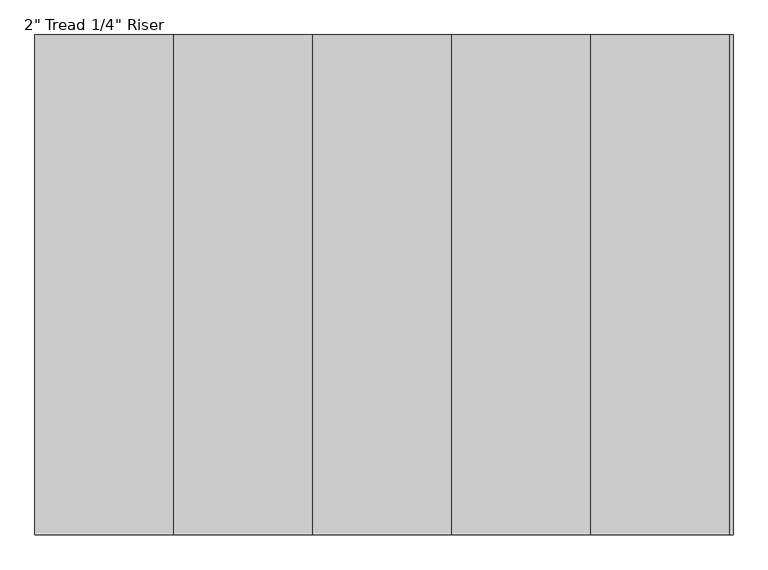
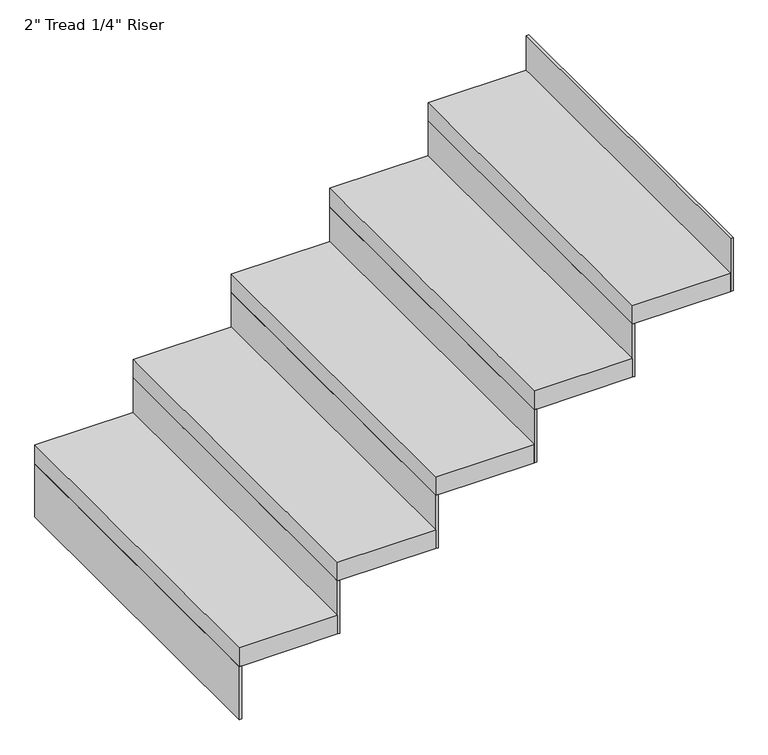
"""IFC4 building model written with IfcOpenShell, lengths in millimetres: stair flight geometry."""

import ifcopenshell
import ifcopenshell.guid

model = None  # the IFC model being written
_history = None  # IfcOwnerHistory: only IFC2X3 demands one
_inside = {}  # id of a spatial element -> (the spatial element, [elements in it])
_under = {}  # id of a project, library or spatial element -> (it, [spatial elements below it])
_declared = {}  # id of a project -> (the project, [libraries it declares])
_typed = {}  # id of a type object -> (the type object, [elements of that type])
_made_of = {}  # id of a material, layer set ... -> (it, [elements and type objects made of it])


def new_model(schema):
    """Start an empty IFC model of exactly this schema.

    Asked for "IFC4X3", IfcOpenShell would pick the latest addendum, in which some entities
    have other attributes; the version numbers below select the first issue.
    IFC2X3 requires an IfcOwnerHistory on every rooted entity: one is made here for all.
    """
    global model, _history
    if schema == "IFC4X3":
        model = ifcopenshell.file(schema_version=(4, 3, 0, 0))
    else:
        model = ifcopenshell.file(schema=schema)
    _inside.clear()
    _under.clear()
    _declared.clear()
    _typed.clear()
    _made_of.clear()
    _history = None
    if model.schema == "IFC2X3":
        org = make("IfcOrganization", Name="unknown")
        user = make(
            "IfcPersonAndOrganization",
            ThePerson=make("IfcPerson", FamilyName="unknown"),
            TheOrganization=org,
        )
        app = make(
            "IfcApplication",
            ApplicationDeveloper=org,
            Version="unknown",
            ApplicationFullName="unknown",
            ApplicationIdentifier="unknown",
        )
        _history = make(
            "IfcOwnerHistory",
            OwningUser=user,
            OwningApplication=app,
            ChangeAction="ADDED",
            CreationDate=0,
        )
    return model


def make(cls, **values):
    """One entity of the class cls with the attributes given. An attribute that is None is left unset."""
    return model.create_entity(
        cls, **{name: value for name, value in values.items() if value is not None}
    )


def rooted(cls, **values):
    """An entity with a GlobalId (a new one), such as an element, a storey or a relation."""
    return make(cls, GlobalId=ifcopenshell.guid.new(), OwnerHistory=_history, **values)


def si_unit(unit_type, name, prefix=None):
    """IfcSIUnit, for example si_unit("LENGTHUNIT", "METRE", prefix="MILLI")."""
    return make("IfcSIUnit", UnitType=unit_type, Prefix=prefix, Name=name)


def assignment(units):
    """IfcUnitAssignment: the units of a project."""
    return None if units is None else make("IfcUnitAssignment", Units=units)


def point(xyz):
    """IfcCartesianPoint."""
    return None if xyz is None else make("IfcCartesianPoint", Coordinates=xyz)


def direction(xyz):
    """IfcDirection."""
    return None if xyz is None else make("IfcDirection", DirectionRatios=xyz)


def frame(location, z_axis=None, x_axis=None):
    """IfcAxis2Placement3D, a coordinate frame: its origin and axes. An axis left out is left unset."""
    return make(
        "IfcAxis2Placement3D",
        Location=point(location),
        Axis=direction(z_axis),
        RefDirection=direction(x_axis),
    )


def origin():
    """The frame at (0, 0, 0) with its axes left unset."""
    return frame((0.0, 0.0, 0.0))


def place(relative_to, where):
    """IfcLocalPlacement: puts the frame where relative to a parent placement (None: the world)."""
    return make(
        "IfcLocalPlacement", PlacementRelTo=relative_to, RelativePlacement=where
    )


def context(
    kind, dimensions, precision=None, world=None, true_north=None, identifier=None
):
    """IfcGeometricRepresentationContext, for example the 3D "Model" context."""
    return make(
        "IfcGeometricRepresentationContext",
        ContextIdentifier=identifier,
        ContextType=kind,
        CoordinateSpaceDimension=dimensions,
        Precision=precision,
        WorldCoordinateSystem=world,
        TrueNorth=true_north,
    )


def project(units=None, contexts=None):
    """IfcProject with its units and contexts."""
    return rooted(
        "IfcProject",
        Name="project",
        RepresentationContexts=contexts,
        UnitsInContext=assignment(units),
    )


def spatial(cls, under=None, at=None, **own):
    """A site, building, storey or space (cls), placed at a placement, below another one or the project."""
    s = rooted(cls, ObjectPlacement=at, **own)
    if under is not None:
        _under.setdefault(under.id(), (under, []))[1].append(s)
    return s


def polyline(points):
    """IfcPolyline through the points."""
    return make("IfcPolyline", Points=[point(p) for p in points])


def outline(outer, holes=None, kind="AREA"):
    """IfcArbitraryClosedProfileDef: a profile drawn as a closed curve; with holes, ...WithVoids."""
    if holes is None:
        return make("IfcArbitraryClosedProfileDef", ProfileType=kind, OuterCurve=outer)
    return make(
        "IfcArbitraryProfileDefWithVoids",
        ProfileType=kind,
        OuterCurve=outer,
        InnerCurves=holes,
    )


def extrude(swept, where, along, depth):
    """IfcExtrudedAreaSolid: the profile swept, set in the frame where, extruded along a direction by depth."""
    return make(
        "IfcExtrudedAreaSolid",
        SweptArea=swept,
        Position=where,
        ExtrudedDirection=direction(along),
        Depth=depth,
    )


def shape(context_of_items, identifier, shape_type, items):
    """IfcShapeRepresentation: the items that make up one representation, for example the "Body"."""
    return make(
        "IfcShapeRepresentation",
        ContextOfItems=context_of_items,
        RepresentationIdentifier=identifier,
        RepresentationType=shape_type,
        Items=items,
    )


def source(mapping_origin, context_of_items, identifier, shape_type, items):
    """IfcRepresentationMap: a shape defined once, which mapped items show again and again."""
    return make(
        "IfcRepresentationMap",
        MappingOrigin=mapping_origin,
        MappedRepresentation=shape(context_of_items, identifier, shape_type, items),
    )


def transform(
    local_origin,
    x_axis=None,
    y_axis=None,
    z_axis=None,
    scale=None,
    scale2=None,
    scale3=None,
    uniform=True,
):
    """IfcCartesianTransformationOperator3D, or its non-uniform kind. x_axis, y_axis, z_axis: its Axis1, 2, 3."""
    if uniform:
        return make(
            "IfcCartesianTransformationOperator3D",
            Axis1=direction(x_axis),
            Axis2=direction(y_axis),
            LocalOrigin=point(local_origin),
            Scale=scale,
            Axis3=direction(z_axis),
        )
    return make(
        "IfcCartesianTransformationOperator3DnonUniform",
        Axis1=direction(x_axis),
        Axis2=direction(y_axis),
        LocalOrigin=point(local_origin),
        Scale=scale,
        Axis3=direction(z_axis),
        Scale2=scale2,
        Scale3=scale3,
    )


def mapped(mapping_source, mapping_target):
    """IfcMappedItem: shows the shape of a source again, moved by a transform."""
    return make(
        "IfcMappedItem", MappingSource=mapping_source, MappingTarget=mapping_target
    )


def made_of(thing, what):
    """Note that an element or type object is made of a material, layer set ...; save() writes the relation."""
    if what is not None:
        _made_of.setdefault(what.id(), (what, []))[1].append(thing)
    return thing


def element(
    cls,
    number,
    at=None,
    inside=None,
    cuts=None,
    type_object=None,
    material=None,
    context=None,
    identifier="Body",
    shape_type=None,
    held_by="IfcProductDefinitionShape",
    body=None,
    shapes=None,
    **own,
):
    """One element of the class cls, such as IfcWall. Its Tag is "e" and its number.

    at: its placement. inside: the storey or other place that contains it. cuts: it is an
    opening in that element (IfcRelVoidsElement). A single representation is given by context,
    identifier, shape_type and body (its items); several are given by shapes. held_by: the class
    of the entity that holds the representations. save() writes the other relations.
    """
    e = rooted(cls, Tag="e%d" % number, ObjectPlacement=at, **own)
    if body is not None:
        shapes = [shape(context, identifier, shape_type, body)]
    if shapes is not None:
        e.Representation = make(held_by, Representations=shapes)
    if inside is not None:
        _inside.setdefault(inside.id(), (inside, []))[1].append(e)
    if cuts is not None:
        rooted(
            "IfcRelVoidsElement", RelatingBuildingElement=cuts, RelatedOpeningElement=e
        )
    if type_object is not None:
        _typed.setdefault(type_object.id(), (type_object, []))[1].append(e)
    return made_of(e, material)


def aggregate(whole, parts):
    """IfcRelAggregates: a whole, such as a stair, and the parts it consists of."""
    return rooted("IfcRelAggregates", RelatingObject=whole, RelatedObjects=parts)


def save(model, path):
    """Write the relations noted so far, then the file.

    IfcRelAggregates (storeys below a building ...), IfcRelContainedInSpatialStructure (elements
    in a storey), IfcRelDefinesByType, IfcRelAssociatesMaterial and IfcRelDeclares: one each for
    every whole, place, type object, material and project.
    """
    for whole, parts in _under.values():
        aggregate(whole, parts)
    for where, things in _inside.values():
        rooted(
            "IfcRelContainedInSpatialStructure",
            RelatedElements=things,
            RelatingStructure=where,
        )
    for kind, things in _typed.values():
        rooted("IfcRelDefinesByType", RelatedObjects=things, RelatingType=kind)
    for what, things in _made_of.values():
        rooted("IfcRelAssociatesMaterial", RelatedObjects=things, RelatingMaterial=what)
    for by, libraries in _declared.values():
        rooted("IfcRelDeclares", RelatingContext=by, RelatedDefinitions=libraries)
    model.write(path)


def stair_flight_9864251a(model_context):
    return source(origin(), model_context, "Body", "SweptSolid", [
        extrude(outline(polyline([(162833.3711992, -2391.9711813), (162827.0211992, -2391.9711813), (162827.0211992, -1477.5711813), (162833.3711992, -1477.5711813), (162833.3711992, -2391.9711813)])), frame((0.0, 0.0, 2126.3428571), z_axis=(0.0, 0.0, 1.0), x_axis=(1.0, 0.0, 0.0)), (0.0, 0.0, 1.0), 145.1428571),
        extrude(outline(polyline([(163081.0211992, -1477.5711813), (163081.0211992, -2391.9711813), (162827.0211992, -2391.9711813), (162827.0211992, -1477.5711813), (163081.0211992, -1477.5711813)])), frame((0.0, 0.0, 2271.4857143), z_axis=(0.0, 0.0, 1.0), x_axis=(1.0, 0.0, 0.0)), (0.0, 0.0, 1.0), 50.8),
        extrude(outline(polyline([(163087.3711992, -2391.9711813), (163081.0211992, -2391.9711813), (163081.0211992, -1477.5711813), (163087.3711992, -1477.5711813), (163087.3711992, -2391.9711813)])), frame((0.0, 0.0, 2271.4857143), z_axis=(0.0, 0.0, 1.0), x_axis=(1.0, 0.0, 0.0)), (0.0, 0.0, 1.0), 145.1428571),
        extrude(outline(polyline([(163335.0211992, -1477.5711813), (163335.0211992, -2391.9711813), (163081.0211992, -2391.9711813), (163081.0211992, -1477.5711813), (163335.0211992, -1477.5711813)])), frame((0.0, 0.0, 2416.6285714), z_axis=(0.0, 0.0, 1.0), x_axis=(1.0, 0.0, 0.0)), (0.0, 0.0, 1.0), 50.8),
        extrude(outline(polyline([(163341.3711992, -2391.9711813), (163335.0211992, -2391.9711813), (163335.0211992, -1477.5711813), (163341.3711992, -1477.5711813), (163341.3711992, -2391.9711813)])), frame((0.0, 0.0, 2416.6285714), z_axis=(0.0, 0.0, 1.0), x_axis=(1.0, 0.0, 0.0)), (0.0, 0.0, 1.0), 145.1428571),
        extrude(outline(polyline([(163589.0211992, -1477.5711813), (163589.0211992, -2391.9711813), (163335.0211992, -2391.9711813), (163335.0211992, -1477.5711813), (163589.0211992, -1477.5711813)])), frame((0.0, 0.0, 2561.7714286), z_axis=(0.0, 0.0, 1.0), x_axis=(1.0, 0.0, 0.0)), (0.0, 0.0, 1.0), 50.8),
        extrude(outline(polyline([(163595.3711992, -2391.9711813), (163589.0211992, -2391.9711813), (163589.0211992, -1477.5711813), (163595.3711992, -1477.5711813), (163595.3711992, -2391.9711813)])), frame((0.0, 0.0, 2561.7714286), z_axis=(0.0, 0.0, 1.0), x_axis=(1.0, 0.0, 0.0)), (0.0, 0.0, 1.0), 145.1428571),
        extrude(outline(polyline([(163843.0211992, -1477.5711813), (163843.0211992, -2391.9711813), (163589.0211992, -2391.9711813), (163589.0211992, -1477.5711813), (163843.0211992, -1477.5711813)])), frame((0.0, 0.0, 2706.9142857), z_axis=(0.0, 0.0, 1.0), x_axis=(1.0, 0.0, 0.0)), (0.0, 0.0, 1.0), 50.8),
        extrude(outline(polyline([(163849.3711992, -2391.9711813), (163843.0211992, -2391.9711813), (163843.0211992, -1477.5711813), (163849.3711992, -1477.5711813), (163849.3711992, -2391.9711813)])), frame((0.0, 0.0, 2706.9142857), z_axis=(0.0, 0.0, 1.0), x_axis=(1.0, 0.0, 0.0)), (0.0, 0.0, 1.0), 145.1428571),
        extrude(outline(polyline([(164103.3711992, -2391.9711813), (164097.0211992, -2391.9711813), (164097.0211992, -1477.5711813), (164103.3711992, -1477.5711813), (164103.3711992, -2391.9711813)])), frame((0.0, 0.0, 2852.0571429), z_axis=(0.0, 0.0, 1.0), x_axis=(1.0, 0.0, 0.0)), (0.0, 0.0, 1.0), 145.1428571),
        extrude(outline(polyline([(164097.0211992, -1477.5711813), (164097.0211992, -2391.9711813), (163843.0211992, -2391.9711813), (163843.0211992, -1477.5711813), (164097.0211992, -1477.5711813)])), frame((0.0, 0.0, 2852.0571429), z_axis=(0.0, 0.0, 1.0), x_axis=(1.0, 0.0, 0.0)), (0.0, 0.0, 1.0), 50.8),
    ])


if __name__ == "__main__":
    model = new_model("IFC4")
    model_context = context("Model", 3, world=origin())
    ifc_project = project(units=[si_unit("LENGTHUNIT", "METRE", prefix="MILLI")], contexts=[model_context])
    site = spatial("IfcSite", under=ifc_project)
    building = spatial("IfcBuilding", under=site)
    placement = place(None, origin())
    stair_flight_shape = stair_flight_9864251a(model_context)
    element("IfcStairFlight", 1, ObjectType="2\" Tread 1/4\" Riser", at=placement, inside=building, context=model_context, shape_type="MappedRepresentation", body=[
        mapped(stair_flight_shape, transform((0.0, 0.0, 0.0), x_axis=(1.0, 0.0, 0.0), y_axis=(0.0, 1.0, 0.0), z_axis=(0.0, 0.0, 1.0))),
    ])
    save(model, "model.ifc")
